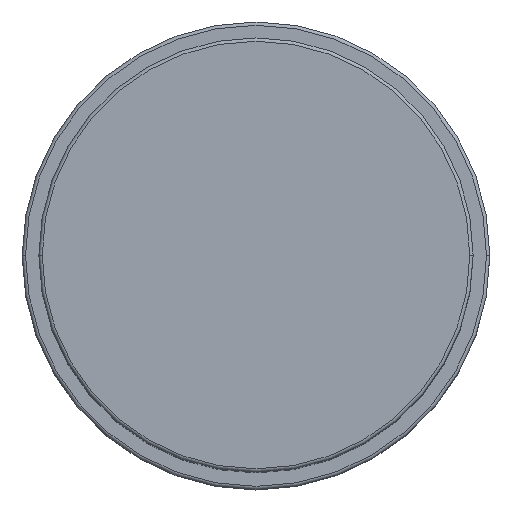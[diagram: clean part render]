
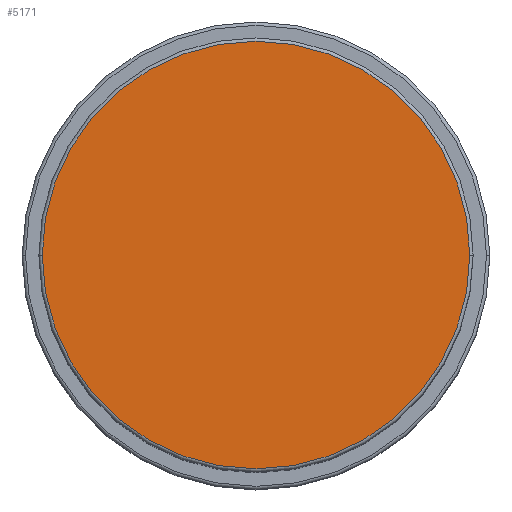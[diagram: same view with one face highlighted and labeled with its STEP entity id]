
A CAD part, top view. The second image highlights one B-rep face of the part: STEP entity #5171.
In plain terms, the highlighted planar face has unit normal (0, 0, 1).
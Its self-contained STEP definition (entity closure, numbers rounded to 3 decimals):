
#108 = AXIS2_PLACEMENT_3D ( 'NONE', #4992, #1664, #3249 ) ;
#178 = DIRECTION ( 'NONE',  ( 0., 0., 1. ) ) ;
#237 = DIRECTION ( 'NONE',  ( 1., 0., 0. ) ) ;
#453 = AXIS2_PLACEMENT_3D ( 'NONE', #4364, #5175, #2155 ) ;
#526 = VERTEX_POINT ( 'NONE', #2267 ) ;
#631 = CARTESIAN_POINT ( 'NONE',  ( 0., 0., 97. ) ) ;
#710 = EDGE_LOOP ( 'NONE', ( #1536, #4796 ) ) ;
#806 = VERTEX_POINT ( 'NONE', #3030 ) ;
#1536 = ORIENTED_EDGE ( 'NONE', *, *, #4596, .T. ) ;
#1664 = DIRECTION ( 'NONE',  ( 0., 0., 1. ) ) ;
#1716 = FACE_OUTER_BOUND ( 'NONE', #710, .T. ) ;
#2103 = PLANE ( 'NONE',  #453 ) ;
#2155 = DIRECTION ( 'NONE',  ( 1., 0., 0. ) ) ;
#2267 = CARTESIAN_POINT ( 'NONE',  ( -32., 0., 97. ) ) ;
#2993 = EDGE_CURVE ( 'NONE', #526, #806, #3935, .T. ) ;
#3030 = CARTESIAN_POINT ( 'NONE',  ( 32., 0., 97. ) ) ;
#3249 = DIRECTION ( 'NONE',  ( 1., 0., 0. ) ) ;
#3924 = CIRCLE ( 'NONE', #4681, 32. ) ;
#3935 = CIRCLE ( 'NONE', #108, 32. ) ;
#4364 = CARTESIAN_POINT ( 'NONE',  ( 0., 0., 97. ) ) ;
#4596 = EDGE_CURVE ( 'NONE', #806, #526, #3924, .T. ) ;
#4681 = AXIS2_PLACEMENT_3D ( 'NONE', #631, #178, #237 ) ;
#4796 = ORIENTED_EDGE ( 'NONE', *, *, #2993, .T. ) ;
#4992 = CARTESIAN_POINT ( 'NONE',  ( 0., 0., 97. ) ) ;
#5171 = ADVANCED_FACE ( 'NONE', ( #1716 ), #2103, .T. ) ;
#5175 = DIRECTION ( 'NONE',  ( 0., 0., 1. ) ) ;
